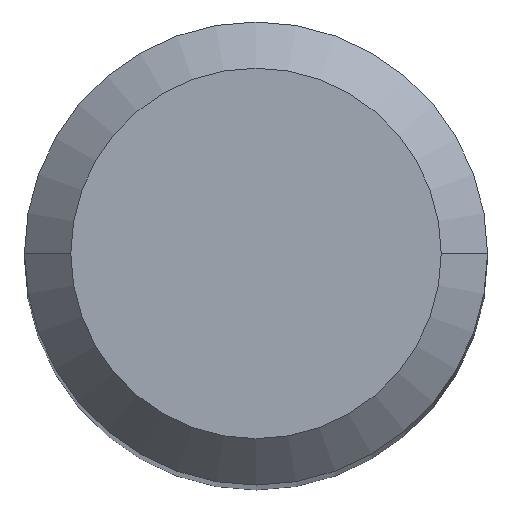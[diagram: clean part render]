
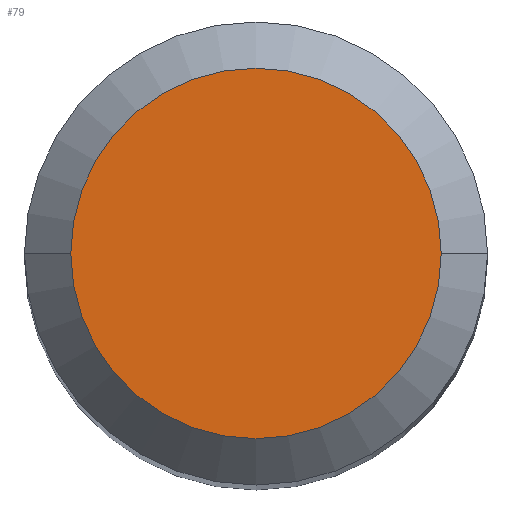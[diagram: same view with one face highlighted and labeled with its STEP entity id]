
A CAD part, top view. The second image highlights one B-rep face of the part: STEP entity #79.
In plain terms, the highlighted planar face has unit normal (0, 0, 1).
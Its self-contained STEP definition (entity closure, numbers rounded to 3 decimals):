
#27 = CIRCLE ( 'NONE', #409, 2.4 ) ;
#68 = VERTEX_POINT ( 'NONE', #376 ) ;
#74 = DIRECTION ( 'NONE',  ( -1., 0., 0. ) ) ;
#79 = ADVANCED_FACE ( 'NONE', ( #461 ), #294, .T. ) ;
#84 = EDGE_CURVE ( 'NONE', #251, #68, #27, .T. ) ;
#116 = DIRECTION ( 'NONE',  ( 0., 0., 1. ) ) ;
#126 = CARTESIAN_POINT ( 'NONE',  ( 0., 0., 0. ) ) ;
#183 = ORIENTED_EDGE ( 'NONE', *, *, #465, .F. ) ;
#190 = CARTESIAN_POINT ( 'NONE',  ( 0., 0., 0. ) ) ;
#242 = EDGE_LOOP ( 'NONE', ( #304, #183 ) ) ;
#251 = VERTEX_POINT ( 'NONE', #393 ) ;
#261 = DIRECTION ( 'NONE',  ( -1., 0., 0. ) ) ;
#287 = AXIS2_PLACEMENT_3D ( 'NONE', #498, #116, #454 ) ;
#294 = PLANE ( 'NONE',  #287 ) ;
#304 = ORIENTED_EDGE ( 'NONE', *, *, #84, .F. ) ;
#376 = CARTESIAN_POINT ( 'NONE',  ( 2.4, 0., 0. ) ) ;
#393 = CARTESIAN_POINT ( 'NONE',  ( -2.4, 0., 0. ) ) ;
#405 = DIRECTION ( 'NONE',  ( 0., 0., -1. ) ) ;
#409 = AXIS2_PLACEMENT_3D ( 'NONE', #126, #405, #74 ) ;
#411 = CIRCLE ( 'NONE', #475, 2.4 ) ;
#454 = DIRECTION ( 'NONE',  ( 1., 0., 0. ) ) ;
#461 = FACE_OUTER_BOUND ( 'NONE', #242, .T. ) ;
#465 = EDGE_CURVE ( 'NONE', #68, #251, #411, .T. ) ;
#475 = AXIS2_PLACEMENT_3D ( 'NONE', #190, #495, #261 ) ;
#495 = DIRECTION ( 'NONE',  ( 0., 0., -1. ) ) ;
#498 = CARTESIAN_POINT ( 'NONE',  ( 0., 2.4, 0. ) ) ;
